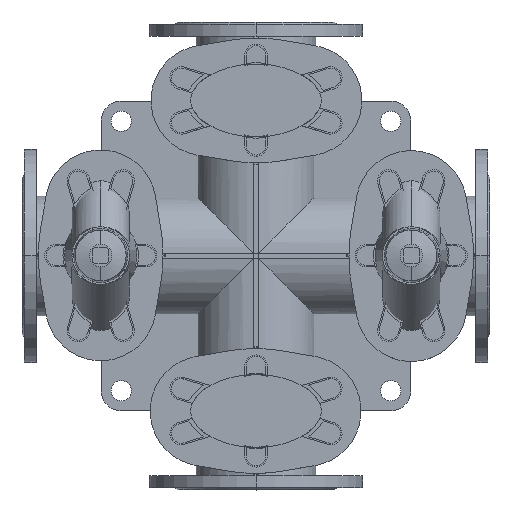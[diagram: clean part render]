
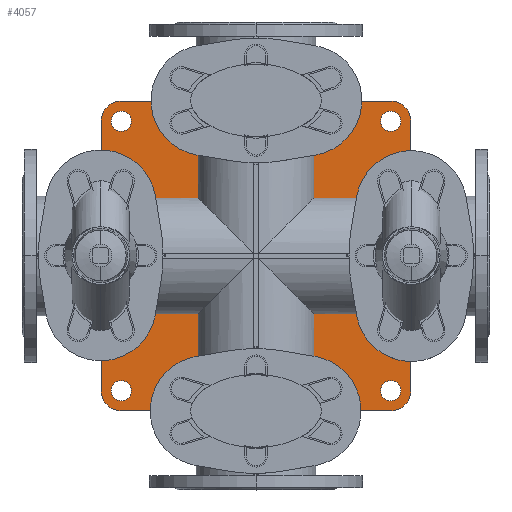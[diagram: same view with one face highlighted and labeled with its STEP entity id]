
A CAD part, top view. The second image highlights one B-rep face of the part: STEP entity #4057.
In plain terms, the highlighted planar face has unit normal (0, 0, 1).
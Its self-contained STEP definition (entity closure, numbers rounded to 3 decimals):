
#4057=ADVANCED_FACE('',(#8771,#8772,#8773,#8774,#8775),#8776,.F.);
#8771=FACE_BOUND('',#15587,.T.);
#8772=FACE_BOUND('',#15588,.T.);
#8773=FACE_BOUND('',#15589,.T.);
#8774=FACE_BOUND('',#15590,.T.);
#8775=FACE_OUTER_BOUND('',#15591,.T.);
#8776=PLANE('',#15592);
#15587=EDGE_LOOP('',(#22602,#22603));
#15588=EDGE_LOOP('',(#22604,#22605));
#15589=EDGE_LOOP('',(#22606,#22607));
#15590=EDGE_LOOP('',(#22608,#22609));
#15591=EDGE_LOOP('',(#22610,#22611,#22612,#22613,#22614,#22615,#22616,#22617));
#15592=AXIS2_PLACEMENT_3D('',#22618,#22619,#22620);
#22602=ORIENTED_EDGE('',*,*,#37770,.T.);
#22603=ORIENTED_EDGE('',*,*,#37771,.T.);
#22604=ORIENTED_EDGE('',*,*,#37772,.T.);
#22605=ORIENTED_EDGE('',*,*,#37773,.T.);
#22606=ORIENTED_EDGE('',*,*,#37774,.T.);
#22607=ORIENTED_EDGE('',*,*,#37775,.T.);
#22608=ORIENTED_EDGE('',*,*,#37776,.T.);
#22609=ORIENTED_EDGE('',*,*,#37666,.T.);
#22610=ORIENTED_EDGE('',*,*,#37275,.F.);
#22611=ORIENTED_EDGE('',*,*,#37777,.F.);
#22612=ORIENTED_EDGE('',*,*,#37778,.F.);
#22613=ORIENTED_EDGE('',*,*,#37779,.F.);
#22614=ORIENTED_EDGE('',*,*,#37780,.F.);
#22615=ORIENTED_EDGE('',*,*,#37781,.F.);
#22616=ORIENTED_EDGE('',*,*,#37782,.F.);
#22617=ORIENTED_EDGE('',*,*,#37783,.F.);
#22618=CARTESIAN_POINT('',(312.5,0.0,20.0));
#22619=DIRECTION('',(0.0,0.0,-1.0));
#22620=DIRECTION('',(-1.0,0.0,0.0));
#37275=EDGE_CURVE('',#43878,#43879,#43880,.T.);
#37666=EDGE_CURVE('',#44560,#44557,#44561,.T.);
#37770=EDGE_CURVE('',#44739,#44740,#44741,.T.);
#37771=EDGE_CURVE('',#44740,#44739,#44742,.T.);
#37772=EDGE_CURVE('',#44743,#44744,#44745,.T.);
#37773=EDGE_CURVE('',#44744,#44743,#44746,.T.);
#37774=EDGE_CURVE('',#44747,#44748,#44749,.T.);
#37775=EDGE_CURVE('',#44748,#44747,#44750,.T.);
#37776=EDGE_CURVE('',#44557,#44560,#44751,.T.);
#37777=EDGE_CURVE('',#44752,#43878,#44753,.T.);
#37778=EDGE_CURVE('',#44754,#44752,#44755,.T.);
#37779=EDGE_CURVE('',#44756,#44754,#44757,.T.);
#37780=EDGE_CURVE('',#44758,#44756,#44759,.T.);
#37781=EDGE_CURVE('',#44760,#44758,#44761,.T.);
#37782=EDGE_CURVE('',#44762,#44760,#44763,.T.);
#37783=EDGE_CURVE('',#43879,#44762,#44764,.T.);
#43878=VERTEX_POINT('',#53118);
#43879=VERTEX_POINT('',#53119);
#43880=LINE('',#53120,#53121);
#44557=VERTEX_POINT('',#53988);
#44560=VERTEX_POINT('',#53992);
#44561=CIRCLE('',#53993,13.5);
#44739=VERTEX_POINT('',#54219);
#44740=VERTEX_POINT('',#54220);
#44741=CIRCLE('',#54221,13.5);
#44742=CIRCLE('',#54222,13.5);
#44743=VERTEX_POINT('',#54223);
#44744=VERTEX_POINT('',#54224);
#44745=CIRCLE('',#54225,13.5);
#44746=CIRCLE('',#54226,13.5);
#44747=VERTEX_POINT('',#54227);
#44748=VERTEX_POINT('',#54228);
#44749=CIRCLE('',#54229,13.5);
#44750=CIRCLE('',#54230,13.5);
#44751=CIRCLE('',#54231,13.5);
#44752=VERTEX_POINT('',#54232);
#44753=CIRCLE('',#54233,27.0);
#44754=VERTEX_POINT('',#54234);
#44755=LINE('',#54235,#54236);
#44756=VERTEX_POINT('',#54237);
#44757=CIRCLE('',#54238,27.0);
#44758=VERTEX_POINT('',#54239);
#44759=LINE('',#54240,#54241);
#44760=VERTEX_POINT('',#54242);
#44761=CIRCLE('',#54243,27.0);
#44762=VERTEX_POINT('',#54244);
#44763=LINE('',#54245,#54246);
#44764=CIRCLE('',#54247,27.0);
#53118=CARTESIAN_POINT('',(492.5,-207.0,20.0));
#53119=CARTESIAN_POINT('',(132.5,-207.0,20.0));
#53120=CARTESIAN_POINT('',(492.5,-207.0,20.0));
#53121=VECTOR('',#64316,1.0);
#53988=CARTESIAN_POINT('',(506.0,180.0,20.0));
#53992=CARTESIAN_POINT('',(479.0,180.0,20.0));
#53993=AXIS2_PLACEMENT_3D('',#64868,#64869,#64870);
#54219=CARTESIAN_POINT('',(146.0,180.0,20.0));
#54220=CARTESIAN_POINT('',(119.0,180.0,20.0));
#54221=AXIS2_PLACEMENT_3D('',#65021,#65022,#65023);
#54222=AXIS2_PLACEMENT_3D('',#65024,#65025,#65026);
#54223=CARTESIAN_POINT('',(146.0,-180.0,20.0));
#54224=CARTESIAN_POINT('',(119.0,-180.0,20.0));
#54225=AXIS2_PLACEMENT_3D('',#65027,#65028,#65029);
#54226=AXIS2_PLACEMENT_3D('',#65030,#65031,#65032);
#54227=CARTESIAN_POINT('',(506.0,-180.0,20.0));
#54228=CARTESIAN_POINT('',(479.0,-180.0,20.0));
#54229=AXIS2_PLACEMENT_3D('',#65033,#65034,#65035);
#54230=AXIS2_PLACEMENT_3D('',#65036,#65037,#65038);
#54231=AXIS2_PLACEMENT_3D('',#65039,#65040,#65041);
#54232=CARTESIAN_POINT('',(519.5,-180.0,20.0));
#54233=AXIS2_PLACEMENT_3D('',#65042,#65043,#65044);
#54234=CARTESIAN_POINT('',(519.5,180.0,20.0));
#54235=CARTESIAN_POINT('',(519.5,180.0,20.0));
#54236=VECTOR('',#65045,1.0);
#54237=CARTESIAN_POINT('',(492.5,207.0,20.0));
#54238=AXIS2_PLACEMENT_3D('',#65046,#65047,#65048);
#54239=CARTESIAN_POINT('',(132.5,207.0,20.0));
#54240=CARTESIAN_POINT('',(132.5,207.0,20.0));
#54241=VECTOR('',#65049,1.0);
#54242=CARTESIAN_POINT('',(105.5,180.0,20.0));
#54243=AXIS2_PLACEMENT_3D('',#65050,#65051,#65052);
#54244=CARTESIAN_POINT('',(105.5,-180.0,20.0));
#54245=CARTESIAN_POINT('',(105.5,-180.0,20.0));
#54246=VECTOR('',#65053,1.0);
#54247=AXIS2_PLACEMENT_3D('',#65054,#65055,#65056);
#64316=DIRECTION('',(-1.0,0.0,0.0));
#64868=CARTESIAN_POINT('',(492.5,180.0,20.0));
#64869=DIRECTION('',(0.0,0.0,-1.0));
#64870=DIRECTION('',(1.0,0.0,0.0));
#65021=CARTESIAN_POINT('',(132.5,180.0,20.0));
#65022=DIRECTION('',(0.0,0.0,-1.0));
#65023=DIRECTION('',(1.0,0.0,0.0));
#65024=CARTESIAN_POINT('',(132.5,180.0,20.0));
#65025=DIRECTION('',(0.0,0.0,-1.0));
#65026=DIRECTION('',(1.0,0.0,0.0));
#65027=CARTESIAN_POINT('',(132.5,-180.0,20.0));
#65028=DIRECTION('',(0.0,0.0,-1.0));
#65029=DIRECTION('',(1.0,0.0,0.0));
#65030=CARTESIAN_POINT('',(132.5,-180.0,20.0));
#65031=DIRECTION('',(0.0,0.0,-1.0));
#65032=DIRECTION('',(1.0,0.0,0.0));
#65033=CARTESIAN_POINT('',(492.5,-180.0,20.0));
#65034=DIRECTION('',(0.0,0.0,-1.0));
#65035=DIRECTION('',(1.0,0.0,0.0));
#65036=CARTESIAN_POINT('',(492.5,-180.0,20.0));
#65037=DIRECTION('',(0.0,0.0,-1.0));
#65038=DIRECTION('',(1.0,0.0,0.0));
#65039=CARTESIAN_POINT('',(492.5,180.0,20.0));
#65040=DIRECTION('',(0.0,0.0,-1.0));
#65041=DIRECTION('',(1.0,0.0,0.0));
#65042=CARTESIAN_POINT('',(492.5,-180.0,20.0));
#65043=DIRECTION('',(0.0,0.0,-1.0));
#65044=DIRECTION('',(-1.0,0.0,0.0));
#65045=DIRECTION('',(0.0,-1.0,0.0));
#65046=CARTESIAN_POINT('',(492.5,180.0,20.0));
#65047=DIRECTION('',(0.0,0.0,-1.0));
#65048=DIRECTION('',(-1.0,0.0,0.0));
#65049=DIRECTION('',(1.0,0.0,0.0));
#65050=CARTESIAN_POINT('',(132.5,180.0,20.0));
#65051=DIRECTION('',(0.0,0.0,-1.0));
#65052=DIRECTION('',(-1.0,0.0,0.0));
#65053=DIRECTION('',(0.0,1.0,0.0));
#65054=CARTESIAN_POINT('',(132.5,-180.0,20.0));
#65055=DIRECTION('',(0.0,0.0,-1.0));
#65056=DIRECTION('',(-1.0,0.0,0.0));
